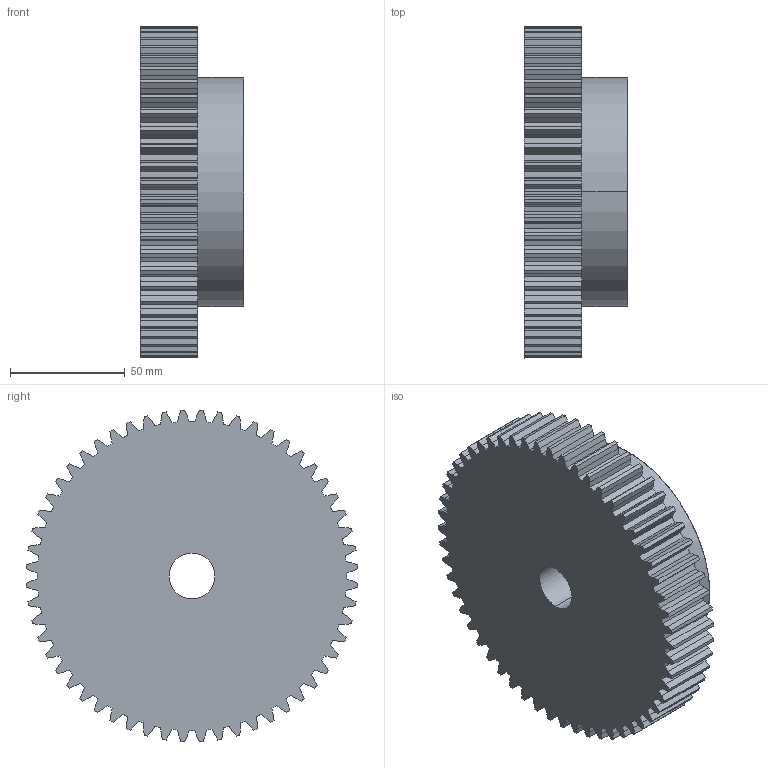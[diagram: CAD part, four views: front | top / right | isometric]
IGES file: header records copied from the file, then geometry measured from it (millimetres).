
Start section: SolidWorks IGES file using analytic representation for surfaces
Global section: file name: C:\Users\Honza\Desktop\Matis (Hotove)\Èelní ozubená kola\PM\MODUL 2,5\PM 29056.IGS; native system: SolidWorks 2010; preprocessor: SolidWorks 2010; author: Honza; date: 130925.152002; units: millimetre
Bounding box: 45 x 144.86 x 144.86 mm (x, y, z)
Surface area: 59802.5 mm2 (no closed solid volume)
Topology: 0 solids, 0 shells, 344 faces, 2276 edges, 2276 vertices
Faces by surface type: bspline 227, revolution 117
